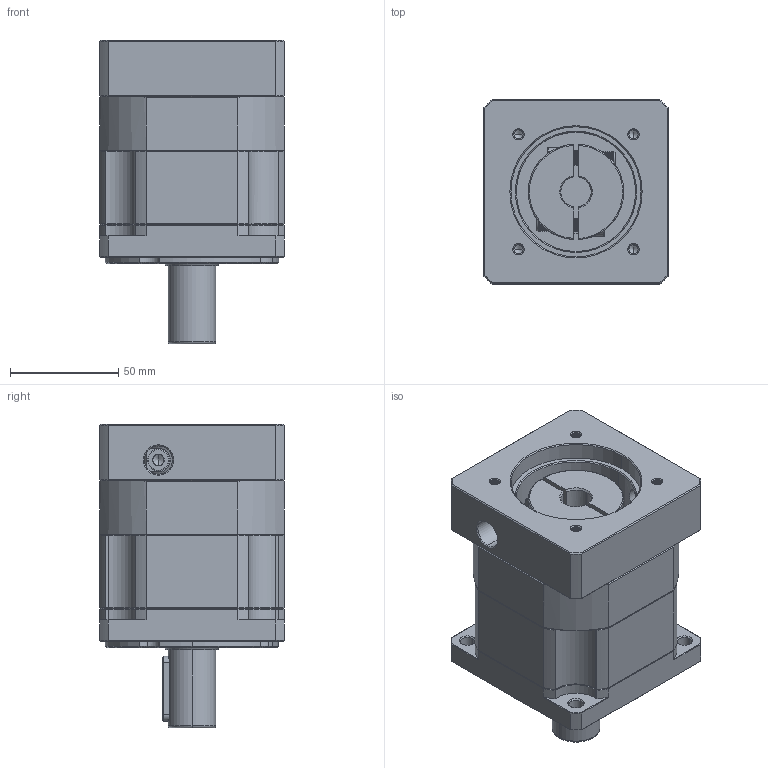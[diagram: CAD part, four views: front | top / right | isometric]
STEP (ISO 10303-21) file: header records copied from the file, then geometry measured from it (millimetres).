
FILE_DESCRIPTION (( 'STEP AP214' ), '1' );
FILE_NAME ('ZB90-D22-L1-14-60-75-M5.STEP', '2022-05-02T15:53:13', ( '' ), ( 'Microsoft' ), 'SwSTEP 2.0', 'SolidWorks 2016', '' );
FILE_SCHEMA (( 'AUTOMOTIVE_DESIGN' ));
Length unit declared in the file: millimetre
Products named in the file (1): ZB90-D22-L1-14-60-75-M5
Bounding box: 85 x 85 x 140 mm (x, y, z)
Volume: 621605.1 mm3; surface area: 85529.8 mm2
Topology: 4 solids, 5 shells, 1946 faces, 5081 edges, 3215 vertices
Faces by surface type: plane 882, cylinder 396, cone 342, bspline 299, torus 27
Entity records: 104939 total; most frequent: CARTESIAN_POINT 38456, ORIENTED_EDGE 10118, DIRECTION 8221, EDGE_CURVE 5059, VERTEX_POINT 3215, LINE 3105, VECTOR 3105, AXIS2_PLACEMENT_3D 2558
